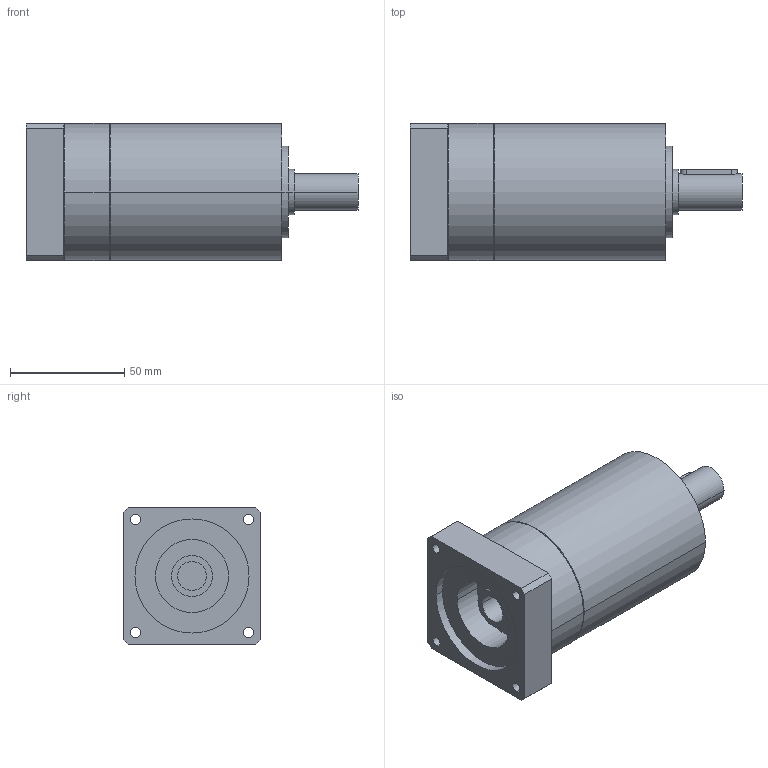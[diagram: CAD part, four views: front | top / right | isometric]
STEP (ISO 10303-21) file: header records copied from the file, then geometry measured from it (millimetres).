
FILE_DESCRIPTION(('CoCreate Modeling STEP Export'),'2;1');
FILE_NAME('GPR75_ig-9-12-16-20-24-30-36_16_B14_12.7_P17.stp','2014-08-25T16:02:25',(''),(''),'CoCreate Modeling STEP processor for AP214 (Solid Model)','CoCreate Modeling 16.00C 25-Feb-2009 (C) Parametric Technology GmbH','');
FILE_SCHEMA(('AUTOMOTIVE_DESIGN { 1 0 10303 214 1 1 1 1 }'));
Length unit declared in the file: millimetre
Products named in the file (2): GPR75_ig-9-12-16-20-24-30-36_16_B14_12.7_P17
Assembly tree (1 placements, depth 2):
  GPR75_ig-9-12-16-20-24-30-36_16_B14_12.7_P17
    GPR75_ig-9-12-16-20-24-30-36_16_B14_12.7_P17
Bounding box: 145.4 x 60 x 60 mm (x, y, z)
Volume: 317539.6 mm3; surface area: 36272.7 mm2
Topology: 1 solids, 1 shells, 70 faces, 186 edges, 130 vertices
Faces by surface type: cylinder 42, plane 22, cone 6
Entity records: 1929 total; most frequent: ORIENTED_EDGE 368, CARTESIAN_POINT 358, DIRECTION 262, EDGE_CURVE 184, VERTEX_POINT 130, AXIS2_PLACEMENT_3D 98, EDGE_LOOP 92, FACE_OUTER_BOUND 70
